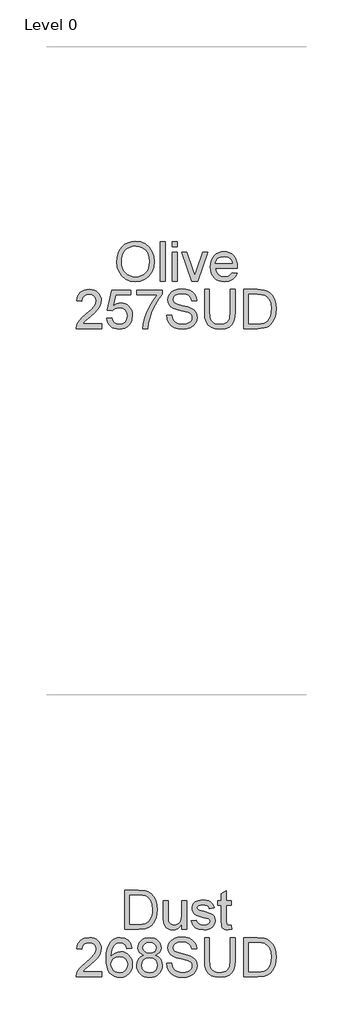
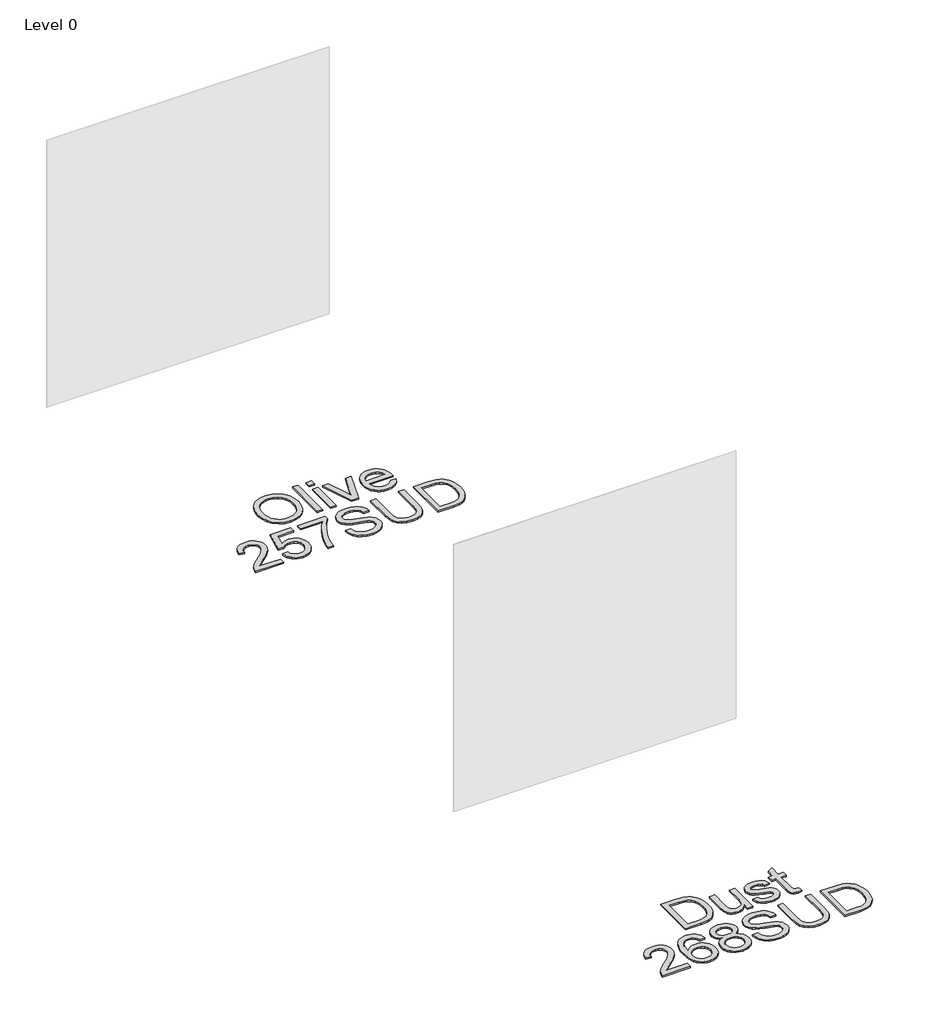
# One storey, part 6 of 37: 2 proxies.
"""IFC4 building model written with IfcOpenShell, lengths in millimetres."""

from ifc_helpers import new_model, si_unit, origin, origin_with_axes, place, context, project, spatial, polyline, outline, extrude, element, save

model = new_model("IFC4")

# Units and contexts
model_context = context("Model", 3, world=origin())
ifc_project = project(units=[si_unit("LENGTHUNIT", "METRE", prefix="MILLI")], contexts=[model_context])

# Site, building, storey
site = spatial("IfcSite", under=ifc_project)
building = spatial("IfcBuilding", under=site)
storey = spatial("IfcBuildingStorey", under=building, Name="Level 0", Elevation=0.0)

# Proxies
placement = place(None, origin())
element("IfcBuildingElementProxy", 1, Name="300mm Arial", ObjectType="300mm Arial", at=placement, inside=storey, context=model_context, shape_type="SweptSolid", body=[
    extrude(outline(polyline([(-9909.7747863, -26816.1491543), (-9907.2639917, -26780.8002931), (-9899.7316078, -26749.5073309), (-9887.1776347, -26722.2702677), (-9869.6020724, -26699.0891034), (-9848.0579831, -26680.5800406), (-9823.5984289, -26667.3592814), (-9796.22341, -26659.4268258), (-9765.9329262, -26656.782674), (-9726.4040058, -26661.7490809), (-9690.9585756, -26676.6483017), (-9661.5280159, -26700.4318727), (-9640.0437074, -26732.0513302), (-9626.9103202, -26769.9799639), (-9622.5325245, -26812.6910635), (-9627.1402464, -26855.9723803), (-9640.9634124, -26894.4344429), (-9663.2386672, -26926.1090827), (-9693.2026557, -26949.028131), (-9728.3445833, -26962.9340704), (-9766.1536554, -26967.5693835), (-9806.289581, -26962.4466267), (-9841.9373464, -26947.0783564), (-9871.2943296, -26922.853327), (-9892.5579089, -26891.1602931), (-9905.4705669, -26854.6939903), (-9909.7747863, -26816.1491543)]), holes=[polyline([(-9872.10367, -26816.5170363), (-9870.220574, -26841.4916252), (-9864.5712861, -26863.661114), (-9855.1558063, -26883.0255025), (-9841.9741346, -26899.5847908), (-9825.9505744, -26912.8469367), (-9808.0094294, -26922.3198981), (-9788.1506994, -26928.0036749), (-9766.3743846, -26929.8982672), (-9744.2255892, -26927.9852808), (-9724.1323345, -26922.2463217), (-9706.0946204, -26912.6813898), (-9690.112447, -26899.2904852), (-9677.0273443, -26882.381709), (-9667.6808423, -26862.2631624), (-9662.0729411, -26838.9348454), (-9660.2036408, -26812.396758), (-9663.4042141, -26779.0482551), (-9673.0059342, -26750.2247008), (-9688.7604806, -26726.6526619), (-9710.4195331, -26709.0587055), (-9736.5483518, -26698.1050191), (-9765.712197, -26694.4537903), (-9786.7320545, -26696.2127261), (-9806.2343987, -26701.4895335), (-9824.2192298, -26710.2842124), (-9840.6865476, -26722.5967629), (-9854.4315386, -26739.0203948), (-9864.2493894, -26760.1483176), (-9870.1400998, -26785.9805314), (-9872.10367, -26816.5170363)])]), origin_with_axes(), (0.0, 0.0, 1.0), 10.0),
    extrude(outline(polyline([(-9575.4436291, -26962.860494), (-9575.4436291, -26661.4915635), (-9537.7725128, -26661.4915635), (-9537.7725128, -26962.860494), (-9575.4436291, -26962.860494)])), origin_with_axes(), (0.0, 0.0, 1.0), 10.0),
    extrude(outline(polyline([(-9481.2658383, -26699.1626798), (-9481.2658383, -26661.4915635), (-9443.594722, -26661.4915635), (-9443.594722, -26699.1626798), (-9481.2658383, -26699.1626798)])), origin_with_axes(), (0.0, 0.0, 1.0), 10.0),
    extrude(outline(polyline([(-9481.2658383, -26962.860494), (-9481.2658383, -26741.5426857), (-9443.594722, -26741.5426857), (-9443.594722, -26962.860494), (-9481.2658383, -26962.860494)])), origin_with_axes(), (0.0, 0.0, 1.0), 10.0),
    extrude(outline(polyline([(-9332.7886651, -26962.860494), (-9410.6324952, -26741.5426857), (-9370.754087, -26741.5426857), (-9323.5916152, -26874.1273567), (-9309.3913702, -26918.7146546), (-9295.4854307, -26876.6289543), (-9248.0286534, -26741.5426857), (-9208.1502451, -26741.5426857), (-9285.0375821, -26962.860494), (-9332.7886651, -26962.860494)])), origin_with_axes(), (0.0, 0.0, 1.0), 10.0),
    extrude(outline(polyline([(-9020.236122, -26896.9360404), (-8983.3007696, -26901.64493), (-8996.6089008, -26929.4752029), (-9017.844889, -26950.2789297), (-9046.5304876, -26963.2467701), (-9082.1874499, -26967.5693835), (-9105.5617522, -26965.7046817), (-9126.3884717, -26960.1105761), (-9144.6676083, -26950.7870668), (-9160.3991621, -26937.7341537), (-9173.0497042, -26921.3151204), (-9182.0858057, -26901.8932503), (-9187.5074666, -26879.4685435), (-9189.3146869, -26854.0409998), (-9187.4890725, -26827.7512327), (-9182.0122293, -26804.5792656), (-9172.8841573, -26784.5250983), (-9160.1048565, -26767.5887309), (-9144.4146894, -26754.133447), (-9126.5540186, -26744.5225298), (-9106.5228439, -26738.7559796), (-9084.3211655, -26736.8337961), (-9062.8345577, -26738.751381), (-9043.4034906, -26744.5041357), (-9026.0279641, -26754.0920602), (-9010.7079783, -26767.5151545), (-8998.2022897, -26784.4147337), (-8989.269655, -26804.4321128), (-8983.9100742, -26827.5672917), (-8982.1235473, -26853.8202706), (-8982.3442764, -26863.9738137), (-9151.6435706, -26863.9738137), (-9145.1228623, -26892.1719686), (-9129.9753211, -26912.902119), (-9108.1139335, -26925.6492302), (-9081.4516859, -26929.8982672), (-9061.4021172, -26927.9300985), (-9044.5163336, -26922.0255925), (-9030.7943352, -26911.8168672), (-9020.236122, -26896.9360404)]), holes=[polyline([(-9151.6435706, -26826.3026974), (-9019.7946636, -26826.3026974), (-9024.8898292, -26806.4002814), (-9034.8778254, -26792.1632482), (-9056.8403805, -26778.9194964), (-9084.4683183, -26774.5049125), (-9109.861373, -26778.0273826), (-9130.8582379, -26788.5947929), (-9145.4539561, -26805.0667092), (-9151.6435706, -26826.3026974)])]), origin_with_axes(), (0.0, 0.0, 1.0), 10.0),
    extrude(outline(polyline([(-10025.14258, -27291.1138312), (-10025.14258, -27328.7849475), (-10222.9159406, -27328.7849475), (-10218.8692386, -27302.8124787), (-10209.5802183, -27282.5145896), (-10195.9869785, -27262.8237058), (-10176.3236859, -27242.213117), (-10148.8245068, -27219.156113), (-10108.1735463, -27183.0484951), (-10083.78297, -27156.3954446), (-10071.5876819, -27134.7639833), (-10067.5225858, -27113.7211331), (-10071.3577556, -27094.8579838), (-10082.863265, -27079.1770138), (-10100.5491919, -27068.6096035), (-10122.9256143, -27065.0871334), (-10146.4240767, -27068.52683), (-10164.6802207, -27078.84592), (-10176.4616416, -27095.2350629), (-10180.5359347, -27116.8849183), (-10218.207051, -27112.1760288), (-10209.0743805, -27075.7373171), (-10200.5280219, -27061.2013798), (-10189.3283144, -27049.1210548), (-10175.7327754, -27039.6251008), (-10159.9989224, -27032.8422765), (-10122.1162739, -27027.4160171), (-10101.9264502, -27028.9243332), (-10083.957714, -27033.4492818), (-10068.2100653, -27040.9908627), (-10054.6835042, -27051.549076), (-10043.819489, -27064.3421723), (-10036.0594782, -27078.5884026), (-10031.4034717, -27094.2877667), (-10029.8514695, -27111.4402648), (-10031.5253326, -27129.4572855), (-10036.5469218, -27147.1616065), (-10045.4588632, -27165.1694302), (-10058.8037825, -27184.0969588), (-10080.0765589, -27206.6941104), (-10112.7720712, -27235.7108027), (-10156.1085703, -27271.9471793), (-10173.1047184, -27291.1138312), (-10025.14258, -27291.1138312)])), origin_with_axes(), (0.0, 0.0, 1.0), 10.0),
    extrude(outline(polyline([(-9987.4714637, -27248.7338254), (-9949.8003474, -27244.0249358), (-9942.8841659, -27266.6404815), (-9930.8176364, -27282.8364863), (-9913.6559413, -27292.5761621), (-9891.4542629, -27295.8227207), (-9864.4517245, -27291.3069693), (-9844.2182147, -27277.7597148), (-9831.5814682, -27256.7444558), (-9827.3692194, -27229.8246908), (-9831.3147538, -27204.4776213), (-9843.151357, -27185.0902402), (-9862.9709995, -27172.7845875), (-9890.8656517, -27168.6827032), (-9909.1401898, -27170.3197781), (-9923.9382431, -27175.2310027), (-9945.0914578, -27192.2271509), (-9982.7625741, -27187.5182614), (-9949.8003474, -27032.1249066), (-9803.8247717, -27032.1249066), (-9803.8247717, -27069.7960229), (-9919.3397182, -27069.7960229), (-9935.4529496, -27152.790201), (-9908.5423816, -27136.4562404), (-9880.3442267, -27131.0115869), (-9861.9984114, -27132.6992456), (-9845.1471168, -27137.7622215), (-9829.7903427, -27146.2005148), (-9815.9280893, -27158.0141254), (-9804.4524703, -27172.4810848), (-9796.2555996, -27188.8794248), (-9791.3374772, -27207.2091452), (-9789.6981031, -27227.470246), (-9795.6026091, -27265.1413624), (-9802.9832416, -27281.9351754), (-9813.3161272, -27297.3678251), (-9828.969506, -27313.1729553), (-9847.2348471, -27324.4623341), (-9868.1121503, -27331.2359613), (-9891.6014157, -27333.4938371), (-9928.6011474, -27327.6904986), (-9944.2798182, -27320.4363255), (-9958.0776923, -27310.2804832), (-9969.5579098, -27297.7288093), (-9978.2836108, -27283.2871418), (-9987.4714637, -27248.7338254)])), origin_with_axes(), (0.0, 0.0, 1.0), 10.0),
    extrude(outline(polyline([(-9756.7358763, -27069.7960229), (-9756.7358763, -27032.1249066), (-9558.9625157, -27032.1249066), (-9558.9625157, -27062.5855358), (-9587.1514736, -27098.2608923), (-9615.06452, -27143.6299393), (-9639.6850225, -27194.5540045), (-9657.9963488, -27246.8944154), (-9666.9726695, -27286.0554538), (-9671.9758646, -27328.7849475), (-9709.6469809, -27328.7849475), (-9705.5726878, -27289.9550029), (-9694.6741837, -27243.8042066), (-9677.2457742, -27194.8850983), (-9653.5817648, -27147.7502177), (-9625.953827, -27105.1402856), (-9596.633632, -27069.7960229), (-9756.7358763, -27069.7960229)])), origin_with_axes(), (0.0, 0.0, 1.0), 10.0),
    extrude(outline(polyline([(-9526.0002889, -27225.1893777), (-9488.3291726, -27225.1893777), (-9484.0065592, -27246.0942721), (-9476.1890668, -27262.8972822), (-9463.9937786, -27276.2330045), (-9446.537778, -27286.7360355), (-9425.2006222, -27293.5510494), (-9401.361869, -27295.8227207), (-9380.3742011, -27294.1028724), (-9361.9984955, -27288.9433274), (-9347.1084717, -27280.7763471), (-9336.5778496, -27270.0341929), (-9330.3146586, -27257.700949), (-9328.2269283, -27244.7606998), (-9329.7904268, -27232.1515444), (-9334.4809222, -27221.2530403), (-9344.0090659, -27211.9548229), (-9360.0855091, -27204.1465276), (-9414.9367146, -27189.7623415), (-9450.9431649, -27180.2433949), (-9473.9817748, -27171.1843008), (-9492.7345595, -27158.510766), (-9506.0242966, -27143.1516928), (-9513.9429565, -27125.4381747), (-9516.5825098, -27105.7013056), (-9513.3175571, -27083.637583), (-9503.522699, -27063.0637824), (-9487.4554529, -27045.6261758), (-9465.3733361, -27032.9710352), (-9438.8674384, -27025.2731044), (-9409.5288492, -27022.7071275), (-9377.7438449, -27025.3926661), (-9349.931966, -27033.4492818), (-9327.0864941, -27046.7114277), (-9310.2007105, -27065.013557), (-9299.5137386, -27087.2152354), (-9295.2647015, -27112.1760288), (-9332.9358179, -27112.1760288), (-9339.8519994, -27089.6984389), (-9354.2729736, -27073.4748429), (-9376.8057458, -27063.6523936), (-9408.0573213, -27060.3782438), (-9440.0446607, -27063.6156054), (-9461.9888218, -27073.3276901), (-9474.6807506, -27087.6199056), (-9478.9113935, -27104.5976597), (-9475.9131553, -27119.0738162), (-9466.9184405, -27130.7172813), (-9445.6548612, -27141.1283418), (-9405.4085709, -27151.7601314), (-9363.8746936, -27161.8584922), (-9338.7483534, -27170.669266), (-9317.2732419, -27184.3360821), (-9302.2912477, -27201.2034716), (-9293.4896709, -27221.0874934), (-9290.555812, -27243.8042066), (-9293.9311293, -27267.0267576), (-9304.0570812, -27288.869751), (-9320.5198005, -27307.668521), (-9342.9054199, -27321.7584014), (-9369.8251849, -27330.5599781), (-9399.890341, -27333.4938371), (-9436.7981021, -27330.3300519), (-9467.1759579, -27320.8386964), (-9491.3733961, -27304.9829824), (-9509.7399047, -27282.7261217), (-9521.5305227, -27255.6132187), (-9526.0002889, -27225.1893777)])), origin_with_axes(), (0.0, 0.0, 1.0), 10.0),
    extrude(outline(polyline([(-9036.2757769, -27027.4160171), (-8998.6046606, -27027.4160171), (-8998.6046606, -27201.277048), (-9001.1614405, -27241.9923878), (-9008.8317801, -27273.3451308), (-9023.1607838, -27297.533372), (-9045.693556, -27316.7552063), (-9076.485279, -27329.3091794), (-9115.5911351, -27333.4938371), (-9153.8416655, -27329.8518053), (-9184.4218564, -27318.92571), (-9207.3409047, -27301.0926303), (-9222.6080075, -27276.7296452), (-9231.188855, -27244.052527), (-9234.0491375, -27201.277048), (-9234.0491375, -27027.4160171), (-9196.3780212, -27027.4160171), (-9196.3780212, -27199.9526728), (-9194.5202172, -27233.8070134), (-9188.9468049, -27257.3790523), (-9178.8484442, -27273.7038158), (-9163.4157945, -27285.8163305), (-9143.2926493, -27293.3211232), (-9119.1228023, -27295.8227207), (-9080.8078925, -27290.8747079), (-9066.4650932, -27284.6896919), (-9055.3320643, -27276.0306694), (-9046.9949386, -27263.8537754), (-9041.0398488, -27247.1151446), (-9036.2757769, -27199.9526728), (-9036.2757769, -27027.4160171)])), origin_with_axes(), (0.0, 0.0, 1.0), 10.0),
    extrude(outline(polyline([(-8932.6802071, -27328.7849475), (-8932.6802071, -27027.4160171), (-8828.7167553, -27027.4160171), (-8774.9324076, -27031.7570246), (-8750.9097133, -27040.12634), (-8730.6394153, -27053.3149095), (-8709.7989003, -27076.270746), (-8694.9548618, -27104.8183889), (-8686.0705116, -27138.406015), (-8683.1090616, -27176.4818015), (-8685.1140184, -27208.8278259), (-8691.1288891, -27237.2926953), (-8700.2891507, -27261.5269217), (-8711.7302808, -27281.1810173), (-8724.9004562, -27296.6964405), (-8739.247854, -27308.5146496), (-8755.7197704, -27317.2794381), (-8775.2635014, -27323.6345996), (-8823.7135601, -27328.7849475), (-8932.6802071, -27328.7849475)]), holes=[polyline([(-8895.0090908, -27291.1138312), (-8828.3488733, -27291.1138312), (-8800.7761177, -27289.7526678), (-8779.8620263, -27285.6691777), (-8764.0798887, -27279.1024841), (-8751.9029947, -27270.2917103), (-8738.8155927, -27253.9853408), (-8728.9839464, -27232.8781114), (-8722.83112, -27206.8780514), (-8720.7801779, -27175.8931903), (-8724.7992887, -27134.8375597), (-8736.8566211, -27104.5240833), (-8754.6713067, -27083.7019623), (-8775.9624772, -27071.1203981), (-8797.6307267, -27066.5954496), (-8829.3789429, -27065.0871334), (-8895.0090908, -27065.0871334), (-8895.0090908, -27291.1138312)])]), origin_with_axes(), (0.0, 0.0, 1.0), 10.0),
])
element("IfcBuildingElementProxy", 2, Name="300mm Arial", ObjectType="300mm Arial", at=placement, inside=storey, context=model_context, shape_type="SweptSolid", body=[
    extrude(outline(polyline([(-9848.5592223, -31952.860494), (-9848.5592223, -31651.4915635), (-9744.5957705, -31651.4915635), (-9690.8114228, -31655.8325711), (-9666.7887285, -31664.2018865), (-9646.5184305, -31677.390456), (-9625.6779155, -31700.3462925), (-9610.833877, -31728.8939353), (-9601.9495268, -31762.4815615), (-9598.9880768, -31800.557348), (-9600.9930336, -31832.9033724), (-9607.0079043, -31861.3682418), (-9616.1681659, -31885.6024682), (-9627.609296, -31905.2565638), (-9640.7794714, -31920.771987), (-9655.1268692, -31932.590196), (-9671.5987856, -31941.3549846), (-9691.1425166, -31947.710146), (-9739.5925753, -31952.860494), (-9848.5592223, -31952.860494)]), holes=[polyline([(-9810.888106, -31915.1893777), (-9744.2278885, -31915.1893777), (-9716.6551329, -31913.8282143), (-9695.7410415, -31909.7447241), (-9679.9589039, -31903.1780305), (-9667.7820099, -31894.3672567), (-9654.6946079, -31878.0608873), (-9644.8629616, -31856.9536578), (-9638.7101352, -31830.9535978), (-9636.6591931, -31799.9687368), (-9640.6783039, -31758.9131061), (-9652.7356363, -31728.5996297), (-9670.5503219, -31707.7775088), (-9691.8414923, -31695.1959446), (-9713.5097419, -31690.670996), (-9745.257958, -31689.1626798), (-9810.888106, -31689.1626798), (-9810.888106, -31915.1893777)])]), origin_with_axes(), (0.0, 0.0, 1.0), 10.0),
    extrude(outline(polyline([(-9410.6324952, -31952.860494), (-9410.6324952, -31914.8214957), (-9424.2625232, -31933.5236966), (-9440.1366312, -31946.8824116), (-9458.2548195, -31954.8976405), (-9478.6170879, -31957.5693835), (-9496.9652025, -31955.6931853), (-9514.0441241, -31950.0645908), (-9528.3731278, -31941.6033049), (-9538.4714886, -31931.2290327), (-9549.6918894, -31903.4907302), (-9551.8991814, -31868.4683643), (-9551.8991814, -31731.5426857), (-9514.2280651, -31731.5426857), (-9514.2280651, -31850.7364521), (-9511.9471967, -31889.1433324), (-9506.4565579, -31901.9548229), (-9497.0479759, -31911.6944987), (-9484.34685, -31917.8473251), (-9468.9785797, -31919.8982672), (-9452.7273925, -31917.8013398), (-9437.5246691, -31911.5105577), (-9424.9890901, -31901.605335), (-9416.7393364, -31888.6650858), (-9412.1592055, -31870.9423707), (-9410.6324952, -31846.6897502), (-9410.6324952, -31731.5426857), (-9372.9613789, -31731.5426857), (-9372.9613789, -31952.860494), (-9410.6324952, -31952.860494)])), origin_with_axes(), (0.0, 0.0, 1.0), 10.0),
    extrude(outline(polyline([(-9335.2902626, -31886.9360404), (-9297.6191463, -31882.2271509), (-9291.6778521, -31898.3403823), (-9280.1815397, -31910.1861825), (-9263.0566329, -31917.470246), (-9240.2295551, -31919.8982672), (-9217.6783888, -31917.6725811), (-9201.8226748, -31910.9955229), (-9192.4416839, -31901.3202265), (-9189.3146869, -31890.0998256), (-9192.460078, -31880.4981055), (-9201.8962512, -31873.1772538), (-9240.6710135, -31862.4350996), (-9297.3984171, -31844.0042116), (-9311.755012, -31834.7427824), (-9322.1568754, -31822.4831149), (-9328.4752487, -31808.0069584), (-9330.5813731, -31792.0960621), (-9328.8891159, -31777.5003439), (-9323.8123444, -31764.0266659), (-9315.810911, -31752.2084568), (-9305.3446682, -31742.5791455), (-9281.3955503, -31731.4323211), (-9248.9851466, -31726.8337961), (-9224.4658116, -31728.6824032), (-9203.14705, -31734.2282242), (-9186.003749, -31742.9286334), (-9174.0107959, -31754.2410048), (-9166.0645448, -31769.0022698), (-9161.0613497, -31788.0493601), (-9198.732466, -31792.7582497), (-9203.4873408, -31780.9032524), (-9212.8959228, -31771.972917), (-9227.0501826, -31766.3719136), (-9246.0420906, -31764.5049125), (-9267.6735519, -31766.2891401), (-9282.0945261, -31771.6418232), (-9290.2063241, -31779.3673451), (-9292.9102568, -31788.2700893), (-9288.4220964, -31799.2329728), (-9274.3690042, -31807.5471059), (-9241.9218122, -31815.5669334), (-9186.6291484, -31833.2988455), (-9172.0242332, -31841.7785255), (-9160.9509851, -31853.3852025), (-9153.9704242, -31868.1556646), (-9151.6435706, -31886.1267001), (-9154.3750944, -31904.7047408), (-9162.5696659, -31922.1791356), (-9175.9145853, -31937.1795239), (-9194.0971529, -31948.3355454), (-9216.059708, -31955.260924), (-9240.7445899, -31957.5693835), (-9278.7284059, -31953.1180114), (-9306.4483142, -31939.763895), (-9324.9527786, -31917.654187), (-9335.2902626, -31886.9360404)])), origin_with_axes(), (0.0, 0.0, 1.0), 10.0),
    extrude(outline(polyline([(-9029.2124426, -31921.4433716), (-9024.5035531, -31953.96414), (-9052.6833139, -31957.5693835), (-9070.764714, -31956.005885), (-9084.2475891, -31951.3153896), (-9093.7757328, -31944.0865084), (-9099.9929385, -31934.9078526), (-9103.4142411, -31919.1441091), (-9104.5546752, -31892.1599648), (-9104.5546752, -31769.213802), (-9132.8080125, -31769.213802), (-9132.8080125, -31731.5426857), (-9104.5546752, -31731.5426857), (-9104.5546752, -31677.758338), (-9066.8835589, -31655.6118419), (-9066.8835589, -31731.5426857), (-9029.2124426, -31731.5426857), (-9029.2124426, -31769.213802), (-9066.8835589, -31769.213802), (-9066.8835589, -31891.0563188), (-9064.8969962, -31910.4804881), (-9058.4590612, -31917.3598814), (-9045.6199796, -31919.8982672), (-9029.2124426, -31921.4433716)])), origin_with_axes(), (0.0, 0.0, 1.0), 10.0),
    extrude(outline(polyline([(-10025.14258, -32281.1138312), (-10025.14258, -32318.7849475), (-10222.9159406, -32318.7849475), (-10218.8692386, -32292.8124787), (-10209.5802183, -32272.5145896), (-10195.9869785, -32252.8237058), (-10176.3236859, -32232.213117), (-10148.8245068, -32209.156113), (-10108.1735463, -32173.0484951), (-10083.78297, -32146.3954446), (-10071.5876819, -32124.7639833), (-10067.5225858, -32103.7211331), (-10071.3577556, -32084.8579838), (-10082.863265, -32069.1770138), (-10100.5491919, -32058.6096035), (-10122.9256143, -32055.0871334), (-10146.4240767, -32058.52683), (-10164.6802207, -32068.84592), (-10176.4616416, -32085.2350629), (-10180.5359347, -32106.8849183), (-10218.207051, -32102.1760288), (-10209.0743805, -32065.7373171), (-10200.5280219, -32051.2013798), (-10189.3283144, -32039.1210548), (-10175.7327754, -32029.6251008), (-10159.9989224, -32022.8422765), (-10122.1162739, -32017.4160171), (-10101.9264502, -32018.9243332), (-10083.957714, -32023.4492818), (-10068.2100653, -32030.9908627), (-10054.6835042, -32041.549076), (-10043.819489, -32054.3421723), (-10036.0594782, -32068.5884026), (-10031.4034717, -32084.2877667), (-10029.8514695, -32101.4402648), (-10031.5253326, -32119.4572855), (-10036.5469218, -32137.1616065), (-10045.4588632, -32155.1694302), (-10058.8037825, -32174.0969588), (-10080.0765589, -32196.6941104), (-10112.7720712, -32225.7108027), (-10156.1085703, -32261.9471793), (-10173.1047184, -32281.1138312), (-10025.14258, -32281.1138312)])), origin_with_axes(), (0.0, 0.0, 1.0), 10.0),
    extrude(outline(polyline([(-9794.4069926, -32097.4671392), (-9832.0781089, -32102.1760288), (-9838.1481618, -32083.5060175), (-9846.3519303, -32070.7589064), (-9863.440049, -32059.0050766), (-9884.096623, -32055.0871334), (-9901.607806, -32057.3680017), (-9918.0889194, -32064.2106069), (-9932.2431791, -32078.622384), (-9943.8038708, -32098.4604206), (-9951.6121662, -32126.5206198), (-9954.5092369, -32165.5988847), (-9939.3984839, -32147.9681401), (-9921.2894927, -32135.5429257), (-9901.1939388, -32128.1760888), (-9880.1234975, -32125.7204764), (-9862.0237033, -32127.3989381), (-9845.3218607, -32132.4343229), (-9830.0179697, -32140.8266309), (-9816.1120303, -32152.5758621), (-9804.5559371, -32166.9830407), (-9796.3015849, -32183.349191), (-9791.3489735, -32201.6743129), (-9789.6981031, -32221.9584064), (-9792.8067059, -32248.9333537), (-9802.1325145, -32273.9401323), (-9816.9029766, -32295.1485293), (-9836.3455401, -32310.7283318), (-9859.577288, -32320.3024607), (-9885.7153038, -32323.4938371), (-9908.1722003, -32321.3785156), (-9928.4539946, -32315.0325512), (-9946.5606865, -32304.4559438), (-9962.4922762, -32289.6486935), (-9975.4808099, -32269.9854009), (-9984.758334, -32244.8406665), (-9990.3248484, -32214.2144904), (-9992.1803532, -32178.1068726), (-9990.120214, -32137.6260575), (-9983.9397965, -32103.0773396), (-9973.6391007, -32074.4607189), (-9959.2181264, -32051.7761954), (-9943.5877402, -32036.7436174), (-9925.4649534, -32026.0060617), (-9904.8497661, -32019.5635282), (-9881.7421783, -32017.4160171), (-9848.687981, -32022.7319119), (-9822.2188714, -32038.6795964), (-9803.6776189, -32064.0082718), (-9794.4069926, -32097.4671392)]), holes=[polyline([(-9954.5092369, -32221.3697952), (-9952.3295361, -32238.0624407), (-9945.7904336, -32254.0009282), (-9935.6368905, -32267.7045325), (-9922.6138679, -32277.6925287), (-9906.8961097, -32283.7901727), (-9888.6583598, -32285.8227207), (-9863.7987339, -32281.6104719), (-9844.2550029, -32268.9737254), (-9831.5906653, -32249.1080976), (-9827.3692194, -32223.2092052), (-9831.535483, -32198.3495793), (-9844.0342738, -32179.3944595), (-9863.9090985, -32167.3923095), (-9890.2034641, -32163.3915928), (-9915.0263018, -32167.3923095), (-9935.7840433, -32179.3944595), (-9949.8279385, -32197.8897269), (-9954.5092369, -32221.3697952)])]), origin_with_axes(), (0.0, 0.0, 1.0), 10.0),
    extrude(outline(polyline([(-9701.8478826, -32152.7965913), (-9722.017013, -32142.8637774), (-9736.1712728, -32129.3992964), (-9744.5313911, -32112.6790597), (-9747.3180972, -32092.9789789), (-9745.800584, -32077.6153071), (-9741.2480443, -32063.5300252), (-9733.6604781, -32050.7231332), (-9723.0378855, -32039.1946312), (-9709.8907027, -32029.6664875), (-9694.729366, -32022.8606706), (-9658.3642308, -32017.4160171), (-9621.7783664, -32022.9894293), (-9606.4514827, -32029.9561946), (-9593.1019648, -32039.709666), (-9582.2862342, -32051.4634957), (-9574.5607123, -32064.4313361), (-9569.9253991, -32078.613187), (-9568.3802948, -32094.0090485), (-9571.1302127, -32113.0745329), (-9579.3799664, -32129.509661), (-9593.2215265, -32142.8913686), (-9612.7468634, -32152.7965913), (-9589.5611006, -32164.7435591), (-9572.6845141, -32182.3375155), (-9562.3930153, -32204.732332), (-9558.9625157, -32231.0818799), (-9560.6639699, -32249.8714528), (-9565.7683326, -32267.0975272), (-9574.2756037, -32282.7601031), (-9586.1857833, -32296.8591806), (-9600.873472, -32308.5118428), (-9617.7132703, -32316.8351729), (-9636.7051783, -32321.829171), (-9657.849196, -32323.4938371), (-9678.9932137, -32321.8222732), (-9697.9851217, -32316.8075818), (-9714.82492, -32308.4497627), (-9729.5126087, -32296.748816), (-9741.4227882, -32282.5508703), (-9749.9300594, -32266.702054), (-9755.0344221, -32249.2023674), (-9756.7358763, -32230.0518103), (-9753.1674209, -32202.6813898), (-9742.4620549, -32180.1670117), (-9725.1716011, -32163.2812282), (-9701.8478826, -32152.7965913)]), holes=[polyline([(-9709.6469809, -32094.0826249), (-9706.3084518, -32110.52695), (-9696.2928645, -32123.6603373), (-9679.8945246, -32132.268776), (-9657.4077376, -32135.1382555), (-9635.4451825, -32132.2871701), (-9619.2951629, -32123.7339137), (-9609.362349, -32111.0419848), (-9606.0514111, -32095.774882), (-9609.4727136, -32079.9283651), (-9619.7366213, -32066.822569), (-9636.1073701, -32058.0209923), (-9657.849196, -32055.0871334), (-9679.7289777, -32057.9566129), (-9696.0721353, -32066.5650516), (-9706.2532695, -32079.1834041), (-9709.6469809, -32094.0826249)]), polyline([(-9719.06476, -32228.7274351), (-9712.7739779, -32257.0911369), (-9704.0643716, -32269.2588339), (-9690.5171172, -32278.317928), (-9674.2935212, -32283.9465226), (-9657.5548904, -32285.8227207), (-9631.9135153, -32281.8771864), (-9612.673287, -32270.0405832), (-9600.6435457, -32252.1155329), (-9596.633632, -32229.9046575), (-9600.7723044, -32207.316703), (-9613.1883218, -32188.9961796), (-9632.8700085, -32176.8560738), (-9658.8056892, -32172.8093718), (-9684.0883793, -32176.8008915), (-9703.1354696, -32188.7754504), (-9715.0824374, -32206.7464859), (-9719.06476, -32228.7274351)])]), origin_with_axes(), (0.0, 0.0, 1.0), 10.0),
    extrude(outline(polyline([(-9526.0002889, -32215.1893777), (-9488.3291726, -32215.1893777), (-9484.0065592, -32236.0942721), (-9476.1890668, -32252.8972822), (-9463.9937786, -32266.2330045), (-9446.537778, -32276.7360355), (-9425.2006222, -32283.5510494), (-9401.361869, -32285.8227207), (-9380.3742011, -32284.1028724), (-9361.9984955, -32278.9433274), (-9347.1084717, -32270.7763471), (-9336.5778496, -32260.0341929), (-9330.3146586, -32247.700949), (-9328.2269283, -32234.7606998), (-9329.7904268, -32222.1515444), (-9334.4809222, -32211.2530403), (-9344.0090659, -32201.9548229), (-9360.0855091, -32194.1465276), (-9414.9367146, -32179.7623415), (-9450.9431649, -32170.2433949), (-9473.9817748, -32161.1843008), (-9492.7345595, -32148.510766), (-9506.0242966, -32133.1516928), (-9513.9429565, -32115.4381747), (-9516.5825098, -32095.7013056), (-9513.3175571, -32073.637583), (-9503.522699, -32053.0637824), (-9487.4554529, -32035.6261758), (-9465.3733361, -32022.9710352), (-9438.8674384, -32015.2731044), (-9409.5288492, -32012.7071275), (-9377.7438449, -32015.3926661), (-9349.931966, -32023.4492818), (-9327.0864941, -32036.7114277), (-9310.2007105, -32055.013557), (-9299.5137386, -32077.2152354), (-9295.2647015, -32102.1760288), (-9332.9358179, -32102.1760288), (-9339.8519994, -32079.6984389), (-9354.2729736, -32063.4748429), (-9376.8057458, -32053.6523936), (-9408.0573213, -32050.3782438), (-9440.0446607, -32053.6156054), (-9461.9888218, -32063.3276901), (-9474.6807506, -32077.6199056), (-9478.9113935, -32094.5976597), (-9475.9131553, -32109.0738162), (-9466.9184405, -32120.7172813), (-9445.6548612, -32131.1283418), (-9405.4085709, -32141.7601314), (-9363.8746936, -32151.8584922), (-9338.7483534, -32160.669266), (-9317.2732419, -32174.3360821), (-9302.2912477, -32191.2034716), (-9293.4896709, -32211.0874934), (-9290.555812, -32233.8042066), (-9293.9311293, -32257.0267576), (-9304.0570812, -32278.869751), (-9320.5198005, -32297.668521), (-9342.9054199, -32311.7584014), (-9369.8251849, -32320.5599781), (-9399.890341, -32323.4938371), (-9436.7981021, -32320.3300519), (-9467.1759579, -32310.8386964), (-9491.3733961, -32294.9829824), (-9509.7399047, -32272.7261217), (-9521.5305227, -32245.6132187), (-9526.0002889, -32215.1893777)])), origin_with_axes(), (0.0, 0.0, 1.0), 10.0),
    extrude(outline(polyline([(-9036.2757769, -32017.4160171), (-8998.6046606, -32017.4160171), (-8998.6046606, -32191.277048), (-9001.1614405, -32231.9923878), (-9008.8317801, -32263.3451308), (-9023.1607838, -32287.533372), (-9045.693556, -32306.7552063), (-9076.485279, -32319.3091794), (-9115.5911351, -32323.4938371), (-9153.8416655, -32319.8518053), (-9184.4218564, -32308.92571), (-9207.3409047, -32291.0926303), (-9222.6080075, -32266.7296452), (-9231.188855, -32234.052527), (-9234.0491375, -32191.277048), (-9234.0491375, -32017.4160171), (-9196.3780212, -32017.4160171), (-9196.3780212, -32189.9526728), (-9194.5202172, -32223.8070134), (-9188.9468049, -32247.3790523), (-9178.8484442, -32263.7038158), (-9163.4157945, -32275.8163305), (-9143.2926493, -32283.3211232), (-9119.1228023, -32285.8227207), (-9080.8078925, -32280.8747079), (-9066.4650932, -32274.6896919), (-9055.3320643, -32266.0306694), (-9046.9949386, -32253.8537754), (-9041.0398488, -32237.1151446), (-9036.2757769, -32189.9526728), (-9036.2757769, -32017.4160171)])), origin_with_axes(), (0.0, 0.0, 1.0), 10.0),
    extrude(outline(polyline([(-8932.6802071, -32318.7849475), (-8932.6802071, -32017.4160171), (-8828.7167553, -32017.4160171), (-8774.9324076, -32021.7570246), (-8750.9097133, -32030.12634), (-8730.6394153, -32043.3149095), (-8709.7989003, -32066.270746), (-8694.9548618, -32094.8183889), (-8686.0705116, -32128.406015), (-8683.1090616, -32166.4818015), (-8685.1140184, -32198.8278259), (-8691.1288891, -32227.2926953), (-8700.2891507, -32251.5269217), (-8711.7302808, -32271.1810173), (-8724.9004562, -32286.6964405), (-8739.247854, -32298.5146496), (-8755.7197704, -32307.2794381), (-8775.2635014, -32313.6345996), (-8823.7135601, -32318.7849475), (-8932.6802071, -32318.7849475)]), holes=[polyline([(-8895.0090908, -32281.1138312), (-8828.3488733, -32281.1138312), (-8800.7761177, -32279.7526678), (-8779.8620263, -32275.6691777), (-8764.0798887, -32269.1024841), (-8751.9029947, -32260.2917103), (-8738.8155927, -32243.9853408), (-8728.9839464, -32222.8781114), (-8722.83112, -32196.8780514), (-8720.7801779, -32165.8931903), (-8724.7992887, -32124.8375597), (-8736.8566211, -32094.5240833), (-8754.6713067, -32073.7019623), (-8775.9624772, -32061.1203981), (-8797.6307267, -32056.5954496), (-8829.3789429, -32055.0871334), (-8895.0090908, -32055.0871334), (-8895.0090908, -32281.1138312)])]), origin_with_axes(), (0.0, 0.0, 1.0), 10.0),
])

save(model, "model.ifc")
